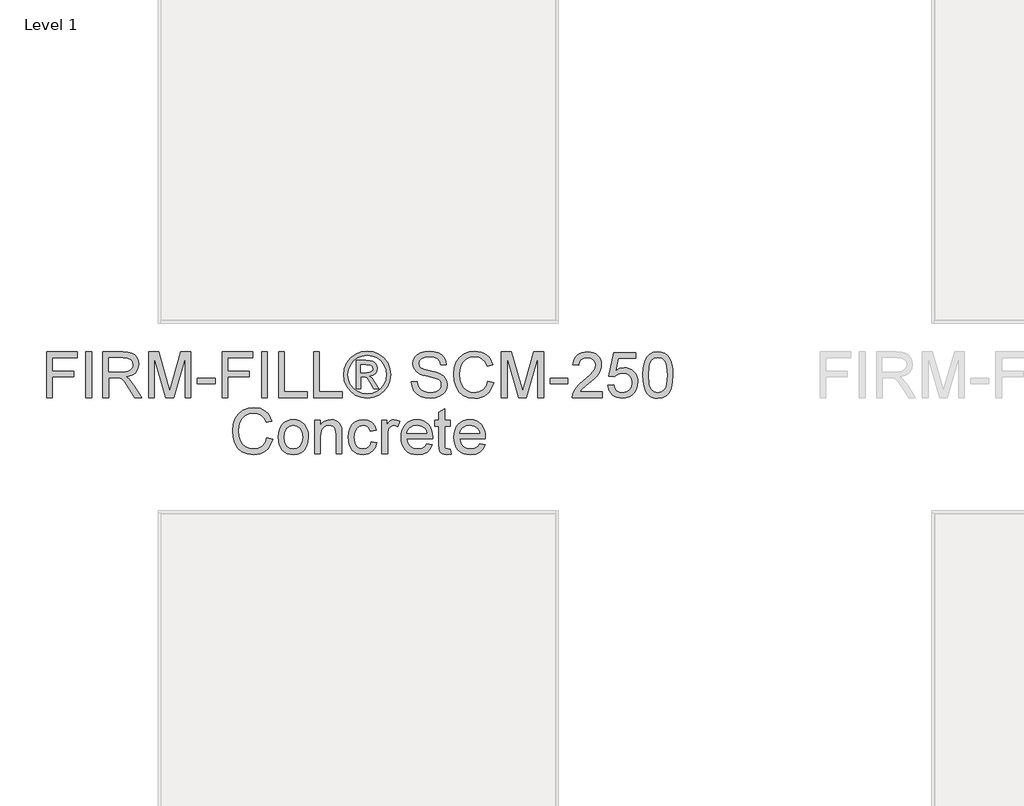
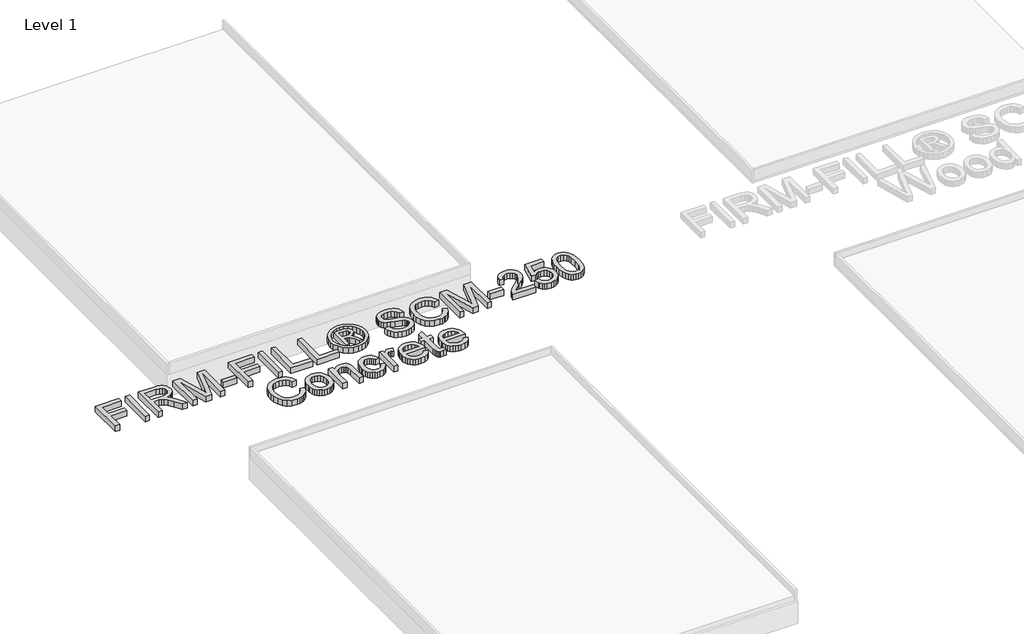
# One storey, part 5 of 10: 1 proxy.
"""IFC4 building model written with IfcOpenShell, lengths in millimetres."""

from ifc_helpers import new_model, si_unit, origin, origin_with_axes, place, context, project, spatial, polyline, outline, extrude, element, save

model = new_model("IFC4")

# Units and contexts
model_context = context("Model", 3, world=origin())
ifc_project = project(units=[si_unit("LENGTHUNIT", "METRE", prefix="MILLI")], contexts=[model_context])

# Site, building, storey
site = spatial("IfcSite", under=ifc_project)
building = spatial("IfcBuilding", under=site)
storey = spatial("IfcBuildingStorey", under=building, Name="Level 1", Elevation=0.0)

# Proxy
placement = place(None, origin())
element("IfcBuildingElementProxy", 1, Name="600mm Arial", ObjectType="600mm Arial", at=placement, inside=storey, context=model_context, shape_type="SweptSolid", body=[
    extrude(outline(polyline([(-5392.4048462, -9445.9364307), (-5392.4048462, -9145.8256615), (-5190.7679231, -9145.8256615), (-5190.7679231, -9183.3395076), (-5354.891, -9183.3395076), (-5354.891, -9272.4348922), (-5214.2140769, -9272.4348922), (-5214.2140769, -9309.9487384), (-5354.891, -9309.9487384), (-5354.891, -9445.9364307), (-5392.4048462, -9445.9364307)])), origin_with_axes(), (0.0, 0.0, 1.0), 50.8),
    extrude(outline(polyline([(-5134.4971539, -9445.9364307), (-5134.4971539, -9145.8256615), (-5096.9833077, -9145.8256615), (-5096.9833077, -9445.9364307), (-5134.4971539, -9445.9364307)])), origin_with_axes(), (0.0, 0.0, 1.0), 50.8),
    extrude(outline(polyline([(-5021.9556154, -9445.9364307), (-5021.9556154, -9145.8256615), (-4892.6354231, -9145.8256615), (-4857.8783318, -9147.849724), (-4832.5912885, -9153.9219115), (-4814.109125, -9165.1321038), (-4799.7666731, -9182.5701807), (-4790.562226, -9204.1937624), (-4787.4940769, -9227.9604692), (-4792.5771298, -9257.5246038), (-4807.8262885, -9282.0331615), (-4819.3776406, -9292.0206735), (-4833.6994856, -9300.0024403), (-4870.6546539, -9309.9487384), (-4849.3333077, -9325.9946999), (-4818.9265769, -9364.6075846), (-4768.8836923, -9445.9364307), (-4812.4788846, -9445.9364307), (-4851.5313846, -9383.7308538), (-4879.7400385, -9342.5535461), (-4899.5593654, -9323.1005653), (-4917.4004231, -9315.9568153), (-4939.1613846, -9314.6379692), (-4984.4417693, -9314.6379692), (-4984.4417693, -9445.9364307), (-5021.9556154, -9445.9364307)]), holes=[polyline([(-4984.4417693, -9277.124123), (-4900.4752308, -9277.124123), (-4876.3604952, -9275.7961182), (-4857.6493654, -9271.8121038), (-4843.5633558, -9264.9064788), (-4833.3239808, -9254.8136422), (-4827.0869375, -9242.6051567), (-4825.0079231, -9229.3525846), (-4828.9736202, -9211.0535942), (-4840.8707116, -9196.3081615), (-4861.3403029, -9186.5816711), (-4891.0235, -9183.3395076), (-4984.4417693, -9183.3395076), (-4984.4417693, -9277.124123)])]), origin_with_axes(), (0.0, 0.0, 1.0), 50.8),
    extrude(outline(polyline([(-4721.8448462, -9445.9364307), (-4721.8448462, -9145.8256615), (-4657.2946539, -9145.8256615), (-4595.8950385, -9357.3539307), (-4583.5125385, -9401.5352769), (-4570.1042693, -9353.6904692), (-4509.7304231, -9145.8256615), (-4445.1802308, -9145.8256615), (-4445.1802308, -9445.9364307), (-4482.6940769, -9445.9364307), (-4482.6940769, -9183.3395076), (-4558.0881154, -9445.9364307), (-4608.9369616, -9445.9364307), (-4684.331, -9183.3395076), (-4684.331, -9445.9364307), (-4721.8448462, -9445.9364307)])), origin_with_axes(), (0.0, 0.0, 1.0), 50.8),
    extrude(outline(polyline([(-4402.9771539, -9356.8410461), (-4402.9771539, -9319.3271999), (-4285.7463846, -9319.3271999), (-4285.7463846, -9356.8410461), (-4402.9771539, -9356.8410461)])), origin_with_axes(), (0.0, 0.0, 1.0), 50.8),
    extrude(outline(polyline([(-4238.8540769, -9445.9364307), (-4238.8540769, -9145.8256615), (-4037.2171539, -9145.8256615), (-4037.2171539, -9183.3395076), (-4201.3402308, -9183.3395076), (-4201.3402308, -9272.4348922), (-4060.6633077, -9272.4348922), (-4060.6633077, -9309.9487384), (-4201.3402308, -9309.9487384), (-4201.3402308, -9445.9364307), (-4238.8540769, -9445.9364307)])), origin_with_axes(), (0.0, 0.0, 1.0), 50.8),
    extrude(outline(polyline([(-3980.9463846, -9445.9364307), (-3980.9463846, -9145.8256615), (-3943.4325385, -9145.8256615), (-3943.4325385, -9445.9364307), (-3980.9463846, -9445.9364307)])), origin_with_axes(), (0.0, 0.0, 1.0), 50.8),
    extrude(outline(polyline([(-3868.4048462, -9445.9364307), (-3868.4048462, -9145.8256615), (-3830.891, -9145.8256615), (-3830.891, -9408.4225846), (-3680.8356154, -9408.4225846), (-3680.8356154, -9445.9364307), (-3868.4048462, -9445.9364307)])), origin_with_axes(), (0.0, 0.0, 1.0), 50.8),
    extrude(outline(polyline([(-3638.6325385, -9445.9364307), (-3638.6325385, -9145.8256615), (-3601.1186923, -9145.8256615), (-3601.1186923, -9408.4225846), (-3451.0633077, -9408.4225846), (-3451.0633077, -9445.9364307), (-3638.6325385, -9445.9364307)])), origin_with_axes(), (0.0, 0.0, 1.0), 50.8),
    extrude(outline(polyline([(-3357.2786923, -9389.6656615), (-3357.2786923, -9202.0964307), (-3296.6850385, -9202.0964307), (-3269.9051346, -9203.3878009), (-3251.6977308, -9207.2619115), (-3239.1961683, -9214.3507096), (-3229.5337885, -9225.2861422), (-3223.3516971, -9238.5570317), (-3221.291, -9252.6521999), (-3224.8445577, -9271.7754692), (-3235.5052308, -9288.2610461), (-3252.0274423, -9300.0940269), (-3273.1656154, -9305.2595076), (-3258.5117693, -9315.224123), (-3232.9408077, -9352.6646999), (-3211.9125385, -9389.6656615), (-3243.5648462, -9389.6656615), (-3260.0504231, -9359.9183538), (-3287.6729231, -9316.8360461), (-3297.7657596, -9311.414123), (-3311.6319616, -9309.9487384), (-3329.1433077, -9309.9487384), (-3329.1433077, -9389.6656615), (-3357.2786923, -9389.6656615)]), holes=[polyline([(-3329.1433077, -9281.8133538), (-3293.5344616, -9281.8133538), (-3272.0848943, -9280.0274163), (-3258.7315769, -9274.6696038), (-3251.7526827, -9266.3627047), (-3249.4263846, -9255.7295076), (-3253.8958077, -9242.1014307), (-3266.3149423, -9233.1625846), (-3295.8058077, -9230.2318153), (-3329.1433077, -9230.2318153), (-3329.1433077, -9281.8133538)])]), origin_with_axes(), (0.0, 0.0, 1.0), 50.8),
    extrude(outline(polyline([(-3286.8669616, -9141.1364307), (-3248.3456635, -9146.1370557), (-3210.7402308, -9161.1389307), (-3177.7049664, -9185.445998), (-3152.8941731, -9218.3621999), (-3137.3702548, -9256.3706134), (-3132.1956154, -9295.9543153), (-3137.2969856, -9335.1899884), (-3152.6010962, -9372.8870076), (-3177.1096539, -9405.6841471), (-3209.8243654, -9430.2201807), (-3247.4939087, -9445.5242913), (-3286.8669616, -9450.6256615), (-3326.1850625, -9445.5242913), (-3363.8362885, -9430.2201807), (-3396.578476, -9405.6841471), (-3421.1694616, -9372.8870076), (-3436.556, -9335.1899884), (-3441.6848462, -9295.9543153), (-3436.4827308, -9256.3706134), (-3420.8763846, -9218.3621999), (-3395.9831635, -9185.445998), (-3362.9204231, -9161.1389307), (-3325.3333077, -9146.1370557), (-3286.8669616, -9141.1364307)]), holes=[polyline([(-3286.8669616, -9169.2718153), (-3318.3910481, -9173.3657336), (-3349.0725385, -9185.6474884), (-3376.0447741, -9205.5492432), (-3396.4410962, -9232.5031615), (-3409.2723702, -9263.6059499), (-3413.5494616, -9295.9543153), (-3409.3547981, -9328.0920317), (-3396.7708077, -9358.8559499), (-3376.6400866, -9385.6083778), (-3349.8052308, -9405.711623), (-3318.9772019, -9418.2956134), (-3286.8669616, -9422.4902769), (-3254.7109279, -9418.2956134), (-3223.8920577, -9405.711623), (-3197.1029952, -9385.6083778), (-3177.0363846, -9358.8559499), (-3164.5073462, -9328.0920317), (-3160.331, -9295.9543153), (-3164.5806154, -9263.6059499), (-3177.3294616, -9232.5031615), (-3197.6708318, -9205.5492432), (-3224.6980193, -9185.6474884), (-3255.4253029, -9173.3657336), (-3286.8669616, -9169.2718153)])]), origin_with_axes(), (0.0, 0.0, 1.0), 50.8),
    extrude(outline(polyline([(-2996.2079231, -9342.7733538), (-2958.6940769, -9342.7733538), (-2954.3895096, -9363.590974), (-2946.6046539, -9380.3238346), (-2934.4602789, -9393.6038826), (-2917.0771539, -9404.0630653), (-2895.8290769, -9410.8496278), (-2872.0898462, -9413.1118153), (-2851.1897981, -9411.3991471), (-2832.8908077, -9406.2611422), (-2818.0629471, -9398.1282576), (-2807.5762885, -9387.4309499), (-2801.3392452, -9375.1491951), (-2799.2602308, -9362.2629692), (-2800.8172019, -9349.7064547), (-2805.4881154, -9338.8534499), (-2814.9764808, -9329.5940509), (-2830.9858077, -9321.8183538), (-2885.6080193, -9307.4942192), (-2921.4641491, -9298.0150124), (-2944.4065769, -9288.9937384), (-2963.0810721, -9276.3731134), (-2976.3153269, -9261.0781615), (-2984.2009279, -9243.4385942), (-2986.8294616, -9223.784123), (-2983.5781394, -9201.8125124), (-2973.8241731, -9181.3246038), (-2957.8240048, -9163.9597961), (-2935.8340769, -9151.3574884), (-2909.4388366, -9143.6916951), (-2880.2227308, -9141.1364307), (-2848.5704231, -9143.8107576), (-2820.8746539, -9151.8337384), (-2798.1245577, -9165.0405172), (-2781.3092693, -9183.2662384), (-2770.6669135, -9205.3752288), (-2766.4356154, -9230.2318153), (-2803.9494616, -9230.2318153), (-2810.8367693, -9207.8480653), (-2825.1975385, -9191.6921999), (-2847.6362404, -9181.9107576), (-2878.7573462, -9178.6502769), (-2910.6111443, -9181.874123), (-2932.4636923, -9191.5456615), (-2945.1026346, -9205.7782096), (-2949.3156154, -9222.6850846), (-2946.3298943, -9237.1008057), (-2937.3727308, -9248.6956615), (-2916.1979231, -9259.0632576), (-2876.1196539, -9269.6506615), (-2834.7591731, -9279.7068634), (-2809.7377308, -9288.4808538), (-2788.3522741, -9302.0906134), (-2773.4328269, -9318.8875846), (-2764.6679952, -9338.6885942), (-2761.7463846, -9361.3104692), (-2765.1076106, -9384.4360701), (-2775.1912885, -9406.187873), (-2791.5852789, -9424.9081615), (-2813.8774423, -9438.9392192), (-2840.6848221, -9447.7040509), (-2870.6244616, -9450.6256615), (-2907.3781394, -9447.4750846), (-2937.6291731, -9438.0233538), (-2961.7255914, -9422.2338346), (-2980.0154231, -9400.0698922), (-2991.7568173, -9373.0701807), (-2996.2079231, -9342.7733538)])), origin_with_axes(), (0.0, 0.0, 1.0), 50.8),
    extrude(outline(polyline([(-2494.4602308, -9339.2564307), (-2456.9463846, -9348.9279692), (-2464.3694736, -9372.2573502), (-2474.2562404, -9392.642224), (-2486.6066851, -9410.0825906), (-2501.4208077, -9424.5784499), (-2518.3643173, -9435.974105), (-2537.1029231, -9444.1138586), (-2557.636625, -9448.9977108), (-2579.9654231, -9450.6256615), (-2623.4781875, -9445.6983057), (-2658.0337885, -9430.9162384), (-2684.5206154, -9406.7923442), (-2703.8270577, -9373.8395076), (-2715.6142452, -9335.0984019), (-2719.5433077, -9293.6096999), (-2715.1013606, -9249.8496519), (-2701.7755193, -9212.0610461), (-2680.2618414, -9181.4436663), (-2651.2563846, -9159.1972961), (-2616.8564808, -9145.6516471), (-2579.1594616, -9141.1364307), (-2538.0279471, -9146.9796519), (-2520.1342272, -9154.2836783), (-2504.0218654, -9164.5093153), (-2489.9564628, -9177.3863826), (-2478.2036202, -9192.6446999), (-2461.6356154, -9230.3050846), (-2499.1494616, -9239.2439307), (-2512.15475, -9211.8870317), (-2529.9225385, -9193.1209499), (-2552.6726346, -9182.2679451), (-2580.6248462, -9178.6502769), (-2612.8449904, -9182.6617672), (-2639.3135, -9194.6962384), (-2659.3984279, -9213.4897961), (-2672.4678269, -9237.7785461), (-2679.6390529, -9265.2361903), (-2682.0294616, -9293.5364307), (-2679.1994375, -9328.1927769), (-2670.7093654, -9358.1598922), (-2656.2386923, -9382.2929451), (-2635.4668654, -9399.4471038), (-2610.5644856, -9409.6956374), (-2583.7021539, -9413.1118153), (-2552.3887164, -9408.4592192), (-2526.2957116, -9394.5014307), (-2506.5954471, -9371.3849884), (-2494.4602308, -9339.2564307)])), origin_with_axes(), (0.0, 0.0, 1.0), 50.8),
    extrude(outline(polyline([(-2405.3648462, -9445.9364307), (-2405.3648462, -9145.8256615), (-2340.8146539, -9145.8256615), (-2279.4150385, -9357.3539307), (-2267.0325385, -9401.5352769), (-2253.6242693, -9353.6904692), (-2193.2504231, -9145.8256615), (-2128.7002308, -9145.8256615), (-2128.7002308, -9445.9364307), (-2166.2140769, -9445.9364307), (-2166.2140769, -9183.3395076), (-2241.6081154, -9445.9364307), (-2292.4569616, -9445.9364307), (-2367.851, -9183.3395076), (-2367.851, -9445.9364307), (-2405.3648462, -9445.9364307)])), origin_with_axes(), (0.0, 0.0, 1.0), 50.8),
    extrude(outline(polyline([(-2086.4971539, -9356.8410461), (-2086.4971539, -9319.3271999), (-1969.2663846, -9319.3271999), (-1969.2663846, -9356.8410461), (-2086.4971539, -9356.8410461)])), origin_with_axes(), (0.0, 0.0, 1.0), 50.8),
    extrude(outline(polyline([(-1744.1833077, -9408.4225846), (-1744.1833077, -9445.9364307), (-1941.131, -9445.9364307), (-1937.1011923, -9420.0723922), (-1927.8509519, -9399.8592432), (-1914.3144616, -9380.2505653), (-1894.7332596, -9359.7260221), (-1867.3488846, -9336.7652769), (-1826.8676346, -9300.8084019), (-1802.5788846, -9274.266623), (-1790.4345096, -9252.7254692), (-1786.3863846, -9231.7704692), (-1790.2055433, -9212.9860701), (-1801.6630193, -9197.3705653), (-1819.2751106, -9186.8472721), (-1841.5581154, -9183.3395076), (-1864.958476, -9186.7648442), (-1883.1384039, -9197.0408538), (-1894.8706394, -9213.3615749), (-1898.9279231, -9234.9210461), (-1936.4417693, -9230.2318153), (-1927.347226, -9193.9452288), (-1918.8365469, -9179.4699764), (-1907.6835962, -9167.4400846), (-1894.1448161, -9157.9837745), (-1878.4766491, -9151.2292672), (-1840.7521539, -9145.8256615), (-1820.646619, -9147.3276807), (-1802.7528991, -9151.8337384), (-1787.070994, -9159.3438346), (-1773.6009039, -9169.8579692), (-1762.782244, -9182.5976567), (-1755.0546298, -9196.7844115), (-1750.4180613, -9212.4182336), (-1748.8725385, -9229.499123), (-1750.5394135, -9247.4409259), (-1755.5400385, -9265.0713346), (-1764.4147741, -9283.0039788), (-1777.7039808, -9301.8524884), (-1798.8879471, -9324.3553009), (-1831.4469616, -9353.2508538), (-1874.6025385, -9389.3359499), (-1891.5277308, -9408.4225846), (-1744.1833077, -9408.4225846)])), origin_with_axes(), (0.0, 0.0, 1.0), 50.8),
    extrude(outline(polyline([(-1706.6694616, -9366.2195076), (-1669.1556154, -9361.5302769), (-1662.2683077, -9384.0514067), (-1650.2521539, -9400.1797961), (-1633.1621058, -9409.8788105), (-1611.0531154, -9413.1118153), (-1584.1633077, -9408.6149163), (-1564.0142693, -9395.1242192), (-1551.4302789, -9374.1966951), (-1547.2356154, -9347.3893153), (-1551.1646779, -9322.1480653), (-1562.9518654, -9302.841623), (-1582.6887644, -9290.5873442), (-1610.4669616, -9286.5025846), (-1628.6652068, -9288.1328249), (-1643.4014808, -9293.0235461), (-1664.4663846, -9309.9487384), (-1701.9802308, -9305.2595076), (-1669.1556154, -9150.5148922), (-1523.7894616, -9150.5148922), (-1523.7894616, -9188.0287384), (-1638.8221539, -9188.0287384), (-1654.8681154, -9270.6764307), (-1628.0698943, -9254.4106615), (-1599.9894616, -9248.9887384), (-1581.7202368, -9250.6693514), (-1564.9392933, -9255.7111903), (-1549.646631, -9264.1142552), (-1535.84225, -9275.8785461), (-1524.4145397, -9290.2851086), (-1516.2518894, -9306.6149884), (-1511.3542993, -9324.8681855), (-1509.7217693, -9345.0446999), (-1515.601625, -9382.5585461), (-1522.9514447, -9399.282248), (-1533.2411923, -9414.6504692), (-1548.8292212, -9430.3896158), (-1567.0183077, -9441.6318634), (-1587.8084519, -9448.377212), (-1611.1996539, -9450.6256615), (-1648.0449183, -9444.8465509), (-1663.6581334, -9437.6226627), (-1677.3984039, -9427.5092192), (-1688.8306935, -9415.0099463), (-1697.5199664, -9400.6285701), (-1706.6694616, -9366.2195076)])), origin_with_axes(), (0.0, 0.0, 1.0), 50.8),
    extrude(outline(polyline([(-1476.8971539, -9298.2989307), (-1474.1403991, -9250.2617913), (-1465.8701346, -9211.9511422), (-1452.1687885, -9182.7808297), (-1433.1187885, -9162.1646999), (-1408.5827548, -9149.9104211), (-1378.4233077, -9145.8256615), (-1355.3068654, -9148.2435461), (-1334.6083077, -9155.4971999), (-1317.2984519, -9167.3027047), (-1304.3481154, -9183.3761422), (-1294.5666731, -9203.5801326), (-1286.7635, -9227.7772961), (-1281.6529712, -9258.5045797), (-1279.9494616, -9298.2989307), (-1282.6787404, -9346.0613105), (-1290.8665769, -9384.280373), (-1304.4854952, -9413.4781615), (-1323.5080193, -9434.1767192), (-1348.0990048, -9446.5134259), (-1378.4233077, -9450.6256615), (-1399.0852308, -9448.839724), (-1417.4025385, -9443.4819115), (-1433.3752308, -9434.552224), (-1447.0033077, -9422.0506615), (-1460.0818654, -9399.4516831), (-1469.4236923, -9371.2934019), (-1475.0287885, -9337.5758177), (-1476.8971539, -9298.2989307)]), holes=[polyline([(-1439.3833077, -9298.2256615), (-1434.9871539, -9357.2348682), (-1429.4919616, -9377.4182516), (-1421.7986923, -9391.3874884), (-1402.1625385, -9407.6807336), (-1378.4233077, -9413.1118153), (-1354.6840769, -9407.6624163), (-1335.0479231, -9391.3142192), (-1327.3546539, -9377.3220858), (-1321.8594616, -9357.1432817), (-1317.4633077, -9298.2256615), (-1321.7129231, -9240.5444596), (-1327.0249423, -9220.4274764), (-1334.4617693, -9206.1262384), (-1354.0612885, -9189.0361903), (-1378.8629231, -9183.3395076), (-1402.3457116, -9188.3584499), (-1421.2125385, -9203.4152769), (-1429.16225, -9218.9849884), (-1434.8406154, -9239.976623), (-1439.3833077, -9298.2256615)])]), origin_with_axes(), (0.0, 0.0, 1.0), 50.8),
    extrude(outline(polyline([(-3945.7771539, -9709.7056615), (-3908.2633077, -9719.3771999), (-3915.6863967, -9742.706581), (-3925.5731635, -9763.0914547), (-3937.9236082, -9780.5318213), (-3952.7377308, -9795.0276807), (-3969.6812404, -9806.4233358), (-3988.4198462, -9814.5630894), (-4008.9535481, -9819.4469415), (-4031.2823462, -9821.0748922), (-4074.7951106, -9816.1475365), (-4109.3507116, -9801.3654692), (-4135.8375385, -9777.2415749), (-4155.1439808, -9744.2887384), (-4166.9311683, -9705.5476326), (-4170.8602308, -9664.0589307), (-4166.4182837, -9620.2988826), (-4153.0924423, -9582.5102769), (-4131.5787644, -9551.8928971), (-4102.5733077, -9529.6465269), (-4068.1734039, -9516.1008778), (-4030.4763846, -9511.5856615), (-3989.3448702, -9517.4288826), (-3971.4511503, -9524.7329091), (-3955.3387885, -9534.9585461), (-3941.2733858, -9547.8356134), (-3929.5205433, -9563.0939307), (-3912.9525385, -9600.7543153), (-3950.4663846, -9609.6931615), (-3963.4716731, -9582.3362624), (-3981.2394616, -9563.5701807), (-4003.9895577, -9552.7171759), (-4031.9417693, -9549.0995076), (-4064.1619135, -9553.110998), (-4090.6304231, -9565.1454692), (-4110.715351, -9583.9390269), (-4123.78475, -9608.2277769), (-4130.955976, -9635.6854211), (-4133.3463846, -9663.9856615), (-4130.5163606, -9698.6420076), (-4122.0262885, -9728.609123), (-4107.5556154, -9752.7421759), (-4086.7837885, -9769.8963346), (-4061.8814087, -9780.1448682), (-4035.0190769, -9783.5610461), (-4003.7056394, -9778.9084499), (-3977.6126346, -9764.9506615), (-3957.9123702, -9741.8342192), (-3945.7771539, -9709.7056615)])), origin_with_axes(), (0.0, 0.0, 1.0), 50.8),
    extrude(outline(polyline([(-3870.7494616, -9706.1887384), (-3868.7208197, -9677.6457937), (-3862.6348943, -9653.0502288), (-3852.4916851, -9632.4020437), (-3838.2911923, -9615.7012384), (-3823.9945337, -9605.0268273), (-3808.2141731, -9597.402248), (-3790.9501106, -9592.8275004), (-3772.2023462, -9591.3025846), (-3751.5060781, -9593.1595016), (-3732.7926587, -9598.7302528), (-3716.0620878, -9608.0148382), (-3701.3143654, -9621.0132576), (-3689.2776046, -9637.2858959), (-3680.6799183, -9656.3931374), (-3675.5213065, -9678.3349824), (-3673.8017693, -9703.1114307), (-3676.8424423, -9741.0099403), (-3685.9644616, -9769.8596999), (-3700.902226, -9791.4649644), (-3721.3901346, -9807.6299884), (-3745.7246779, -9817.7136663), (-3772.2023462, -9821.0748922), (-3793.2008498, -9819.2248442), (-3812.0882837, -9813.6746999), (-3828.8646479, -9804.4244596), (-3843.5299423, -9791.474123), (-3855.438482, -9775.043498), (-3863.9445818, -9755.3523922), (-3869.0482416, -9732.4008057), (-3870.7494616, -9706.1887384)]), holes=[polyline([(-3833.2356154, -9706.1154692), (-3828.8944135, -9740.066599), (-3815.8708077, -9764.2546038), (-3796.2712885, -9778.7344355), (-3772.2023462, -9783.5610461), (-3748.2433077, -9778.7069596), (-3728.6804231, -9764.1446999), (-3715.6568173, -9739.6361422), (-3711.3156154, -9704.9431615), (-3715.6842933, -9671.9811663), (-3728.7903269, -9648.122873), (-3748.3806875, -9633.6430413), (-3772.2023462, -9628.8164307), (-3796.2712885, -9633.624724), (-3815.8708077, -9648.0496038), (-3828.8944135, -9672.1826567), (-3833.2356154, -9706.1154692)])]), origin_with_axes(), (0.0, 0.0, 1.0), 50.8),
    extrude(outline(polyline([(-3631.5986923, -9816.3856615), (-3631.5986923, -9595.9918153), (-3594.0848462, -9595.9918153), (-3594.0848462, -9626.7648922), (-3581.0520818, -9611.2501326), (-3565.3999423, -9600.1681615), (-3547.1284279, -9593.5189788), (-3526.2375385, -9591.3025846), (-3507.7462164, -9593.0885221), (-3490.8118654, -9598.4463346), (-3476.6892212, -9606.7074403), (-3466.6330193, -9617.2032576), (-3455.3861923, -9644.789123), (-3453.4079231, -9681.0573922), (-3453.4079231, -9816.3856615), (-3490.9217693, -9816.3856615), (-3490.9217693, -9686.1129692), (-3495.2446539, -9652.9220076), (-3501.2252548, -9643.0398201), (-3510.5212885, -9635.3740269), (-3522.4366971, -9630.4558297), (-3536.2754231, -9628.8164307), (-3558.2470337, -9632.4982096), (-3576.9764808, -9643.5435461), (-3584.4613906, -9652.5602408), (-3589.8077548, -9664.8832096), (-3594.0848462, -9699.4479692), (-3594.0848462, -9816.3856615), (-3631.5986923, -9816.3856615)])), origin_with_axes(), (0.0, 0.0, 1.0), 50.8),
    extrude(outline(polyline([(-3261.1494616, -9736.6687384), (-3223.6356154, -9741.3579692), (-3234.0947981, -9774.7229451), (-3253.7492693, -9799.9367192), (-3280.7489808, -9815.790349), (-3313.2438846, -9821.0748922), (-3334.2836022, -9819.2317132), (-3353.1481394, -9813.7021759), (-3369.8374964, -9804.4862805), (-3384.3516731, -9791.5840269), (-3396.0999363, -9775.2381194), (-3404.4915529, -9755.6912624), (-3409.5265229, -9732.943456), (-3411.2048462, -9706.9946999), (-3408.3381875, -9673.6114067), (-3399.7382116, -9644.6792192), (-3385.2675385, -9621.3154932), (-3364.7887885, -9604.6375846), (-3340.2893894, -9594.6363346), (-3313.7567693, -9591.3025846), (-3282.0586683, -9595.8819115), (-3256.7166731, -9609.6198922), (-3238.5367452, -9631.7838346), (-3228.3248462, -9661.6410461), (-3265.8386923, -9666.3302769), (-3272.6435721, -9649.9637624), (-3283.2401346, -9638.2315269), (-3297.042226, -9631.1702047), (-3313.4636923, -9628.8164307), (-3337.7066491, -9633.4507096), (-3356.9489808, -9647.3535461), (-3369.5054952, -9671.2759499), (-3373.691, -9705.9689307), (-3369.5970818, -9741.1290028), (-3357.3153269, -9765.1338346), (-3338.4210241, -9778.9542432), (-3314.4894616, -9783.5610461), (-3295.0639568, -9780.6852288), (-3279.1370577, -9772.0577769), (-3267.5513606, -9757.4588826), (-3261.1494616, -9736.6687384)])), origin_with_axes(), (0.0, 0.0, 1.0), 50.8),
    extrude(outline(polyline([(-3190.811, -9816.3856615), (-3190.811, -9595.9918153), (-3157.9863846, -9595.9918153), (-3157.9863846, -9628.596623), (-3145.8603269, -9609.6931615), (-3134.6867693, -9598.5562384), (-3123.4765769, -9593.115998), (-3111.2406154, -9591.3025846), (-3092.5569616, -9594.1967192), (-3073.5802308, -9602.879123), (-3086.1092693, -9636.5096999), (-3099.2977308, -9630.739748), (-3112.4861923, -9628.8164307), (-3123.687226, -9630.6664788), (-3133.6976346, -9636.216623), (-3141.784726, -9645.0455653), (-3147.2158077, -9656.7320076), (-3151.7768173, -9677.6870076), (-3153.2971539, -9700.5470076), (-3153.2971539, -9816.3856615), (-3190.811, -9816.3856615)])), origin_with_axes(), (0.0, 0.0, 1.0), 50.8),
    extrude(outline(polyline([(-2895.8290769, -9750.7364307), (-2859.0479231, -9755.4256615), (-2872.3004952, -9783.139748), (-2893.4478269, -9803.856623), (-2922.0136683, -9816.7703249), (-2957.5217693, -9821.0748922), (-2980.798488, -9819.2179752), (-3001.5382596, -9813.647224), (-3019.7410842, -9804.3626386), (-3035.4069616, -9791.3642192), (-3048.0046899, -9775.0137324), (-3057.0030673, -9755.6729451), (-3062.4020938, -9733.3418574), (-3064.2017693, -9708.0204692), (-3062.3837765, -9681.8404572), (-3056.9297981, -9658.7652288), (-3047.8398342, -9638.7947841), (-3035.1138846, -9621.929123), (-3019.4892212, -9608.5300124), (-3001.7031154, -9598.9592192), (-2981.7555673, -9593.2167432), (-2959.6465769, -9591.3025846), (-2938.2496719, -9593.2121639), (-2918.899726, -9598.9409019), (-2901.5967392, -9608.4887985), (-2886.3407116, -9621.8558538), (-2873.887232, -9638.6848802), (-2864.9918894, -9658.6186903), (-2859.6546839, -9681.6572841), (-2857.8756154, -9707.8006615), (-2858.0954231, -9717.9118153), (-3026.6879231, -9717.9118153), (-3020.1944375, -9745.992248), (-3005.1101346, -9766.6358538), (-2983.3400144, -9779.329748), (-2956.7890769, -9783.5610461), (-2936.8232116, -9781.6010942), (-2920.0079231, -9775.7212384), (-2906.3432116, -9765.5551326), (-2895.8290769, -9750.7364307)]), holes=[polyline([(-3026.6879231, -9680.3979692), (-2895.3894616, -9680.3979692), (-2900.4633558, -9660.5786422), (-2910.4096539, -9646.4010461), (-2932.2805193, -9633.2125846), (-2959.7931154, -9628.8164307), (-2985.0801587, -9632.3241951), (-3005.9893654, -9642.8474884), (-3020.5241491, -9659.2506374), (-3026.6879231, -9680.3979692)])]), origin_with_axes(), (0.0, 0.0, 1.0), 50.8),
    extrude(outline(polyline([(-2740.6448462, -9785.0996999), (-2735.9556154, -9817.4846999), (-2764.0177308, -9821.0748922), (-2782.0236443, -9819.5179211), (-2795.4502308, -9814.8470076), (-2804.9385962, -9807.6483057), (-2811.1298462, -9798.5079692), (-2814.5368654, -9782.8100365), (-2815.6725385, -9755.9385461), (-2815.6725385, -9633.5056615), (-2843.8079231, -9633.5056615), (-2843.8079231, -9595.9918153), (-2815.6725385, -9595.9918153), (-2815.6725385, -9542.4320076), (-2778.1586923, -9520.3779692), (-2778.1586923, -9595.9918153), (-2740.6448462, -9595.9918153), (-2740.6448462, -9633.5056615), (-2778.1586923, -9633.5056615), (-2778.1586923, -9754.8395076), (-2776.1804231, -9774.1825846), (-2769.7693654, -9781.0332576), (-2756.9838846, -9783.5610461), (-2740.6448462, -9785.0996999)])), origin_with_axes(), (0.0, 0.0, 1.0), 50.8),
    extrude(outline(polyline([(-2548.826, -9750.7364307), (-2512.0448462, -9755.4256615), (-2525.2974183, -9783.139748), (-2546.44475, -9803.856623), (-2575.0105914, -9816.7703249), (-2610.5186923, -9821.0748922), (-2633.7954111, -9819.2179752), (-2654.5351827, -9813.647224), (-2672.7380072, -9804.3626386), (-2688.4038846, -9791.3642192), (-2701.001613, -9775.0137324), (-2709.9999904, -9755.6729451), (-2715.3990169, -9733.3418574), (-2717.1986923, -9708.0204692), (-2715.3806995, -9681.8404572), (-2709.9267212, -9658.7652288), (-2700.8367572, -9638.7947841), (-2688.1108077, -9621.929123), (-2672.4861443, -9608.5300124), (-2654.7000385, -9598.9592192), (-2634.7524904, -9593.2167432), (-2612.6435, -9591.3025846), (-2591.246595, -9593.2121639), (-2571.8966491, -9598.9409019), (-2554.5936623, -9608.4887985), (-2539.3376346, -9621.8558538), (-2526.8841551, -9638.6848802), (-2517.9888125, -9658.6186903), (-2512.651607, -9681.6572841), (-2510.8725385, -9707.8006615), (-2511.0923462, -9717.9118153), (-2679.6848462, -9717.9118153), (-2673.1913606, -9745.992248), (-2658.1070577, -9766.6358538), (-2636.3369375, -9779.329748), (-2609.786, -9783.5610461), (-2589.8201346, -9781.6010942), (-2573.0048462, -9775.7212384), (-2559.3401346, -9765.5551326), (-2548.826, -9750.7364307)]), holes=[polyline([(-2679.6848462, -9680.3979692), (-2548.3863846, -9680.3979692), (-2553.4602789, -9660.5786422), (-2563.4065769, -9646.4010461), (-2585.2774423, -9633.2125846), (-2612.7900385, -9628.8164307), (-2638.0770818, -9632.3241951), (-2658.9862885, -9642.8474884), (-2673.5210721, -9659.2506374), (-2679.6848462, -9680.3979692)])]), origin_with_axes(), (0.0, 0.0, 1.0), 50.8),
])

save(model, "model.ifc")
